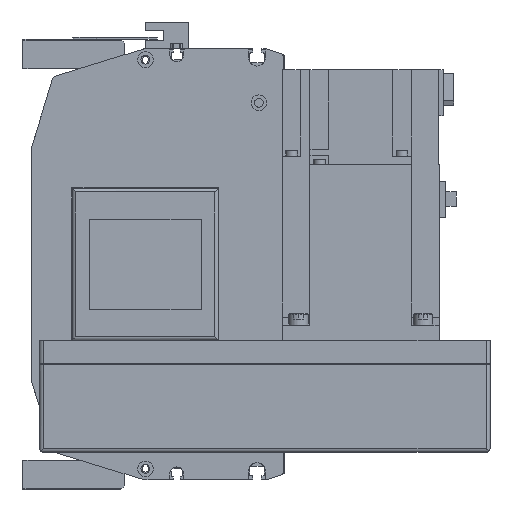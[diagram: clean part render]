
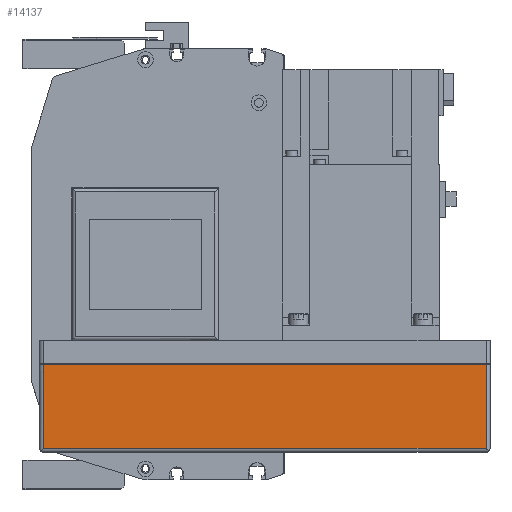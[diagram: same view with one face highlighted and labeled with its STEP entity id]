
A CAD part, left-side view. The second image highlights one B-rep face of the part: STEP entity #14137.
In plain terms, the highlighted planar face has unit normal (-1, 0, 0) as drawn and (0, 1, 0) by its records, which use the part's own axes.
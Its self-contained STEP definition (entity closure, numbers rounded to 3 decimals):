
#2412=ORIENTED_EDGE('',*,*,#5770,.F.);
#2413=ORIENTED_EDGE('',*,*,#5710,.T.);
#2414=ORIENTED_EDGE('',*,*,#5771,.F.);
#2415=ORIENTED_EDGE('',*,*,#5705,.F.);
#5705=EDGE_CURVE('',#7530,#7531,#8992,.T.);
#5710=EDGE_CURVE('',#7536,#7535,#8994,.T.);
#5770=EDGE_CURVE('',#7536,#7530,#9037,.T.);
#5771=EDGE_CURVE('',#7531,#7535,#9038,.T.);
#7530=VERTEX_POINT('',#21977);
#7531=VERTEX_POINT('',#21979);
#7535=VERTEX_POINT('',#21988);
#7536=VERTEX_POINT('',#21990);
#8992=LINE('',#21978,#10333);
#8994=LINE('',#21989,#10335);
#9037=LINE('',#22112,#10378);
#9038=LINE('',#22113,#10379);
#10333=VECTOR('',#17570,1000.);
#10335=VECTOR('',#17580,1000.);
#10378=VECTOR('',#17701,1000.);
#10379=VECTOR('',#17702,1000.);
#11528=EDGE_LOOP('',(#2412,#2413,#2414,#2415));
#12605=FACE_BOUND('',#11528,.T.);
#13520=PLANE('',#15177);
#14137=ADVANCED_FACE('',(#12605),#13520,.T.);
#15177=AXIS2_PLACEMENT_3D('',#22111,#17699,#17700);
#17570=DIRECTION('',(0.,0.,1.));
#17580=DIRECTION('',(0.,0.,1.));
#17699=DIRECTION('',(0.,1.,0.));
#17700=DIRECTION('',(0.,0.,1.));
#17701=DIRECTION('',(1.,0.,0.));
#17702=DIRECTION('',(-1.,0.,0.));
#21977=CARTESIAN_POINT('',(-2.,54.,-55.));
#21978=CARTESIAN_POINT('',(-2.,54.,-57.));
#21979=CARTESIAN_POINT('',(-2.,54.,-12.));
#21988=CARTESIAN_POINT('',(-228.,54.,-12.));
#21989=CARTESIAN_POINT('',(-228.,54.,-57.));
#21990=CARTESIAN_POINT('',(-228.,54.,-55.));
#22111=CARTESIAN_POINT('',(-2.,54.,-57.));
#22112=CARTESIAN_POINT('',(-230.,54.,-55.));
#22113=CARTESIAN_POINT('',(-2.,54.,-12.));
